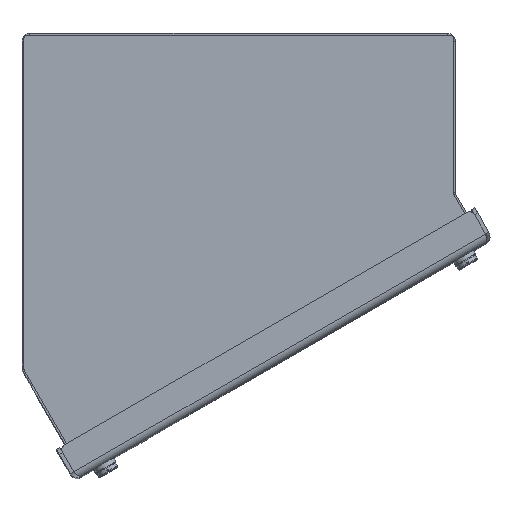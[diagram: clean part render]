
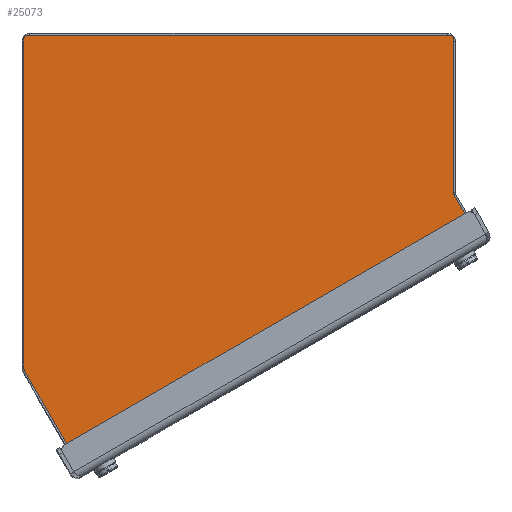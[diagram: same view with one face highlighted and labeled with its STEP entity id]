
A CAD part, top view. The second image highlights one B-rep face of the part: STEP entity #25073.
In plain terms, the highlighted planar face has unit normal (0, 0, 1) as drawn and (0, 1, 0) by its records, which use the part's own axes.
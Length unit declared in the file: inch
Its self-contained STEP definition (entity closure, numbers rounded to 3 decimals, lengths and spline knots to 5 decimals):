
#24382=CARTESIAN_POINT('',(3.32,2.5003,4.21256));
#24383=DIRECTION('',(0.,1.,0.));
#24384=DIRECTION('',(1.,0.,0.));
#24385=AXIS2_PLACEMENT_3D('',#24382,#24383,#24384);
#24390=DIRECTION('',(0.5,0.,0.866));
#24391=VECTOR('',#24390,0.69097);
#24392=CARTESIAN_POINT('',(3.36536,2.5003,6.66018));
#24393=LINE('',#24392,#24391);
#24397=CARTESIAN_POINT('',(3.6762,2.5003,7.27858));
#24398=DIRECTION('',(0.,1.,0.));
#24399=DIRECTION('',(0.5,0.,0.866));
#24400=AXIS2_PLACEMENT_3D('',#24397,#24398,#24399);
#24405=DIRECTION('',(0.5,0.,0.866));
#24406=VECTOR('',#24405,0.09);
#24407=CARTESIAN_POINT('',(3.06144,2.5003,7.57578));
#24408=LINE('',#24407,#24406);
#24412=DIRECTION('',(0.5,0.,0.866));
#24413=VECTOR('',#24412,0.09);
#24414=CARTESIAN_POINT('',(-1.92073,2.5003,10.45223));
#24415=LINE('',#24414,#24413);
#24419=CARTESIAN_POINT('',(-2.48549,2.5003,10.83603));
#24420=DIRECTION('',(0.,1.,0.));
#24421=DIRECTION('',(-0.866,0.,0.5));
#24422=AXIS2_PLACEMENT_3D('',#24419,#24420,#24421);
#24427=DIRECTION('',(0.5,0.,0.866));
#24428=VECTOR('',#24427,1.66902);
#24429=CARTESIAN_POINT('',(-3.35464,2.5003,9.41062));
#24430=LINE('',#24429,#24428);
#24434=CARTESIAN_POINT('',(-3.32,2.5003,9.39062));
#24435=DIRECTION('',(0.,1.,0.));
#24436=DIRECTION('',(-1.,0.,0.));
#24437=AXIS2_PLACEMENT_3D('',#24434,#24435,#24436);
#24442=CARTESIAN_POINT('',(-3.32,2.5003,4.21256));
#24443=DIRECTION('',(0.,1.,0.));
#24444=DIRECTION('',(0.,0.,-1.));
#24445=AXIS2_PLACEMENT_3D('',#24442,#24443,#24444);
#24450=DIRECTION('',(1.,0.,0.));
#24451=VECTOR('',#24450,6.64);
#24452=CARTESIAN_POINT('',(-3.32,2.5003,4.17256));
#24453=LINE('',#24452,#24451);
#24478=DIRECTION('',(0.,0.,1.));
#24479=VECTOR('',#24478,5.17806);
#24480=CARTESIAN_POINT('',(-3.36,2.5003,4.21256));
#24481=LINE('',#24480,#24479);
#24520=DIRECTION('',(0.866,0.,-0.5));
#24521=VECTOR('',#24520,0.681);
#24522=CARTESIAN_POINT('',(-2.46549,2.5003,10.87067));
#24523=LINE('',#24522,#24521);
#24579=DIRECTION('',(-0.866,0.,0.5));
#24580=VECTOR('',#24579,5.75291);
#24581=CARTESIAN_POINT('',(3.06144,2.5003,7.57578));
#24582=LINE('',#24581,#24580);
#24763=DIRECTION('',(0.866,0.,-0.5));
#24764=VECTOR('',#24763,0.681);
#24765=CARTESIAN_POINT('',(3.10644,2.5003,7.65372));
#24766=LINE('',#24765,#24764);
#24784=CARTESIAN_POINT('',(3.4,2.5003,6.64018));
#24785=DIRECTION('',(0.,-1.,0.));
#24786=DIRECTION('',(-0.866,0.,0.5));
#24787=AXIS2_PLACEMENT_3D('',#24784,#24785,#24786);
#24821=DIRECTION('',(0.,0.,-1.));
#24822=VECTOR('',#24821,2.42762);
#24823=CARTESIAN_POINT('',(3.36,2.5003,6.64018));
#24824=LINE('',#24823,#24822);
#24950=CARTESIAN_POINT('',(3.06144,2.5003,7.57578));
#24951=CARTESIAN_POINT('',(-1.92073,2.5003,10.45223));
#24952=VERTEX_POINT('',#24950);
#24953=VERTEX_POINT('',#24951);
#24954=CARTESIAN_POINT('',(-1.87573,2.5003,10.53017));
#24955=VERTEX_POINT('',#24954);
#24958=CARTESIAN_POINT('',(3.10644,2.5003,7.65372));
#24959=VERTEX_POINT('',#24958);
#24986=CARTESIAN_POINT('',(3.36536,2.5003,6.66018));
#24988=VERTEX_POINT('',#24986);
#24990=CARTESIAN_POINT('',(3.36,2.5003,6.64018));
#24992=VERTEX_POINT('',#24990);
#24994=CARTESIAN_POINT('',(3.36,2.5003,4.21256));
#24995=CARTESIAN_POINT('',(3.32,2.5003,4.17256));
#24996=VERTEX_POINT('',#24994);
#24997=VERTEX_POINT('',#24995);
#25002=CARTESIAN_POINT('',(-3.32,2.5003,4.17256));
#25003=CARTESIAN_POINT('',(-3.36,2.5003,4.21256));
#25004=VERTEX_POINT('',#25002);
#25005=VERTEX_POINT('',#25003);
#25010=CARTESIAN_POINT('',(3.6962,2.5003,7.31322));
#25011=CARTESIAN_POINT('',(3.71084,2.5003,7.25858));
#25012=VERTEX_POINT('',#25010);
#25013=VERTEX_POINT('',#25011);
#25018=CARTESIAN_POINT('',(-3.36,2.5003,9.39062));
#25019=CARTESIAN_POINT('',(-3.35464,2.5003,9.41062));
#25020=VERTEX_POINT('',#25018);
#25021=VERTEX_POINT('',#25019);
#25026=CARTESIAN_POINT('',(-2.52013,2.5003,10.85603));
#25027=VERTEX_POINT('',#25026);
#25030=CARTESIAN_POINT('',(-2.46549,2.5003,10.87067));
#25031=VERTEX_POINT('',#25030);
#25034=CARTESIAN_POINT('',(0.,2.5003,6.64286));
#25035=DIRECTION('',(0.,1.,0.));
#25036=DIRECTION('',(1.,0.,0.));
#25037=AXIS2_PLACEMENT_3D('',#25034,#25035,#25036);
#25038=PLANE('',#25037);
#25040=ORIENTED_EDGE('',*,*,#25039,.F.);
#25042=ORIENTED_EDGE('',*,*,#25041,.F.);
#25044=ORIENTED_EDGE('',*,*,#25043,.F.);
#25046=ORIENTED_EDGE('',*,*,#25045,.T.);
#25048=ORIENTED_EDGE('',*,*,#25047,.F.);
#25050=ORIENTED_EDGE('',*,*,#25049,.F.);
#25052=ORIENTED_EDGE('',*,*,#25051,.F.);
#25054=ORIENTED_EDGE('',*,*,#25053,.T.);
#25056=ORIENTED_EDGE('',*,*,#25055,.T.);
#25058=ORIENTED_EDGE('',*,*,#25057,.F.);
#25060=ORIENTED_EDGE('',*,*,#25059,.F.);
#25062=ORIENTED_EDGE('',*,*,#25061,.F.);
#25064=ORIENTED_EDGE('',*,*,#25063,.F.);
#25066=ORIENTED_EDGE('',*,*,#25065,.F.);
#25068=ORIENTED_EDGE('',*,*,#25067,.F.);
#25070=ORIENTED_EDGE('',*,*,#25069,.T.);
#25071=EDGE_LOOP('',(#25040,#25042,#25044,#25046,#25048,#25050,#25052,#25054,
#25056,#25058,#25060,#25062,#25064,#25066,#25068,#25070));
#25072=FACE_OUTER_BOUND('',#25071,.F.);
#24386=CIRCLE('',#24385,0.04);
#24401=CIRCLE('',#24400,0.04);
#24423=CIRCLE('',#24422,0.04);
#24438=CIRCLE('',#24437,0.04);
#24446=CIRCLE('',#24445,0.04);
#24788=CIRCLE('',#24787,0.04);
#25039=EDGE_CURVE('',#24996,#24997,#24386,.T.);
#25041=EDGE_CURVE('',#24992,#24996,#24824,.T.);
#25043=EDGE_CURVE('',#24988,#24992,#24788,.T.);
#25045=EDGE_CURVE('',#24988,#25013,#24393,.T.);
#25047=EDGE_CURVE('',#25012,#25013,#24401,.T.);
#25049=EDGE_CURVE('',#24959,#25012,#24766,.T.);
#25051=EDGE_CURVE('',#24952,#24959,#24408,.T.);
#25053=EDGE_CURVE('',#24952,#24953,#24582,.T.);
#25055=EDGE_CURVE('',#24953,#24955,#24415,.T.);
#25057=EDGE_CURVE('',#25031,#24955,#24523,.T.);
#25059=EDGE_CURVE('',#25027,#25031,#24423,.T.);
#25061=EDGE_CURVE('',#25021,#25027,#24430,.T.);
#25063=EDGE_CURVE('',#25020,#25021,#24438,.T.);
#25065=EDGE_CURVE('',#25005,#25020,#24481,.T.);
#25067=EDGE_CURVE('',#25004,#25005,#24446,.T.);
#25069=EDGE_CURVE('',#25004,#24997,#24453,.T.);
#25073=ADVANCED_FACE('',(#25072),#25038,.T.);
